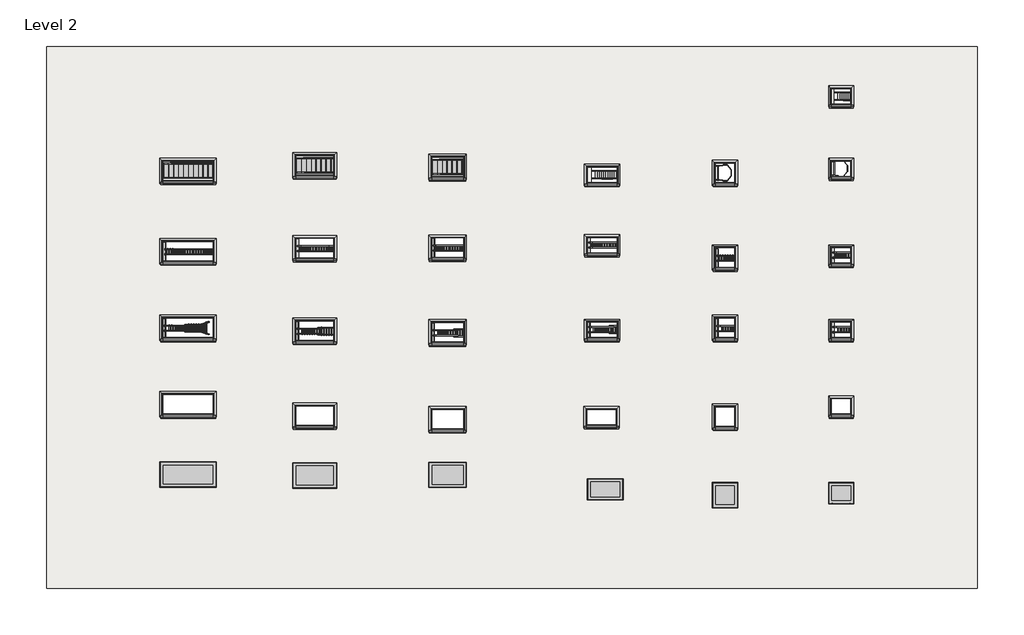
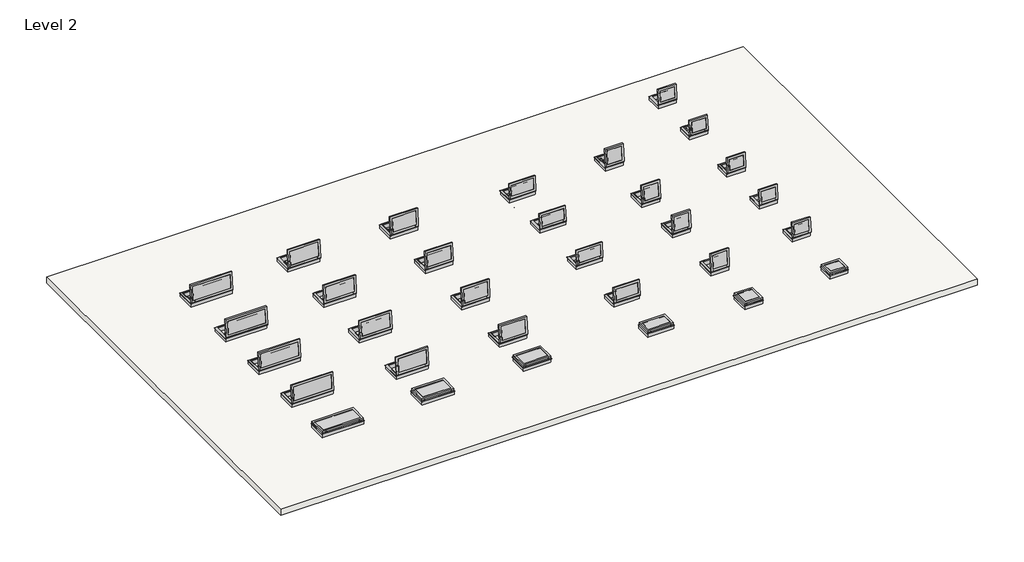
# One storey: 43 proxies, 1 roof.
"""IFC4 building model written with IfcOpenShell, lengths in millimetres."""

from ifc_helpers import new_model, si_unit, frame, origin, place, context, project, spatial, polyline, outline, extrude, transform, mapped, element, save
from components import generic_models_11501db7, generic_models_bd8c62b8, generic_models_e3b8b6f7, generic_models_53a43412, proxy_1400_x_700_b05f2fe0, proxy_1400_x_700_2part_stair_cbd6cccc, proxy_1500_x_900_2part_stair_46a1e432, proxy_1500_x_900_56f5f1ce, proxy_1500_x_900_solid_stair_c85e049a, proxy_1800_x_900_2part_stair_702ff97d, proxy_1800_x_900_1d037618, proxy_1800_x_900_solid_stair_56eae442, proxy_2400_x_900_2part_stair_3cd0962f, proxy_2400_x_900_553dbbde, proxy_2400_x_900_solid_stair_9e12e95f, proxy_900_x_700_2part_stair_44e53f71, proxy_900_x_700_c567ea2a, proxy_900_x_700_cage_ladder_a34c2096, proxy_900_x_700_cage_ladder_d702bcfd, proxy_900_x_900_2part_stair_d8f26226, proxy_900_x_900_452053f7, proxy_900_x_900_cage_ladder_f72fa98c, proxy_900_x_900_cage_ladder_dc90ed7f

model = new_model("IFC4")

# Units and contexts
model_context = context("Model", 3, world=origin())
ifc_project = project(units=[si_unit("LENGTHUNIT", "METRE", prefix="MILLI")], contexts=[model_context])

# Site, building, storey
site = spatial("IfcSite", under=ifc_project)
building = spatial("IfcBuilding", under=site)
storey = spatial("IfcBuildingStorey", under=building, Name="Level 2", Elevation=4000.0)

# Proxies
placement = place(None, origin())
generic_models_shape = generic_models_11501db7(model_context)
element("IfcBuildingElementProxy", 1, Name="9_Topaccess_Trap_3delige1 : 9_Topaccess_Trap_3delige1", ObjectType="9_Topaccess_Trap_3delige1 : 9_Topaccess_Trap_3delige1", at=placement, inside=storey, context=model_context, shape_type="MappedRepresentation", body=[
    mapped(generic_models_shape, transform((14768.4558574, 9423.7829161, -725.9542797), x_axis=(0.0, 1.0, 0.0), y_axis=(-0.3420201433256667, 0.0, 0.9396926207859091), z_axis=(0.9396926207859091, 0.0, 0.3420201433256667))),
])
element("IfcBuildingElementProxy", 2, Name="9_Topaccess_Trap_3delige1 : 9_Topaccess_Trap_3delige1", ObjectType="9_Topaccess_Trap_3delige1 : 9_Topaccess_Trap_3delige1", at=placement, inside=storey, context=model_context, shape_type="MappedRepresentation", body=[
    mapped(generic_models_shape, transform((9167.6234182, 9273.7643889, -726.4965388), x_axis=(0.0, 1.0, 0.0), y_axis=(-0.3420201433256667, 0.0, 0.9396926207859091), z_axis=(0.9396926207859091, 0.0, 0.3420201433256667))),
])
element("IfcBuildingElementProxy", 3, Name="9_Topaccess_Trap_3delige1 : 9_Topaccess_Trap_3delige1", ObjectType="9_Topaccess_Trap_3delige1 : 9_Topaccess_Trap_3delige1", at=placement, inside=storey, context=model_context, shape_type="MappedRepresentation", body=[
    mapped(generic_models_shape, transform((2973.3328651, 9913.7829161, -726.4965388), x_axis=(0.0, 1.0, 0.0), y_axis=(-0.3420201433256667, 0.0, 0.9396926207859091), z_axis=(0.9396926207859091, 0.0, 0.3420201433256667))),
])
element("IfcBuildingElementProxy", 4, Name="9_Topaccess_Trap_3delige1 : 9_Topaccess_Trap_3delige1", ObjectType="9_Topaccess_Trap_3delige1 : 9_Topaccess_Trap_3delige1", at=placement, inside=storey, context=model_context, shape_type="MappedRepresentation", body=[
    mapped(generic_models_shape, transform((-4546.3789178, 9765.6374367, -726.4965388), x_axis=(0.0, 1.0, 0.0), y_axis=(-0.3420201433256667, 0.0, 0.9396926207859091), z_axis=(0.9396926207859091, 0.0, 0.3420201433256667))),
])
element("IfcBuildingElementProxy", 5, Name="9_Topaccess_Trap_3delige1 : 9_Topaccess_Trap_3delige1", ObjectType="9_Topaccess_Trap_3delige1 : 9_Topaccess_Trap_3delige1", at=placement, inside=storey, context=model_context, shape_type="MappedRepresentation", body=[
    mapped(generic_models_shape, transform((-11118.7600609, 9740.5369912, -726.4965388), x_axis=(0.0, 1.0, 0.0), y_axis=(-0.3420201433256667, 0.0, 0.9396926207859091), z_axis=(0.9396926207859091, 0.0, 0.3420201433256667))),
])
element("IfcBuildingElementProxy", 6, Name="9_Topaccess_Trap_3delige1 : 9_Topaccess_Trap_3delige1", ObjectType="9_Topaccess_Trap_3delige1 : 9_Topaccess_Trap_3delige1", at=placement, inside=storey, context=model_context, shape_type="MappedRepresentation", body=[
    mapped(generic_models_shape, transform((-17541.0968788, 9586.7829161, -726.4965388), x_axis=(0.0, 1.0, 0.0), y_axis=(-0.3420201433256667, 0.0, 0.9396926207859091), z_axis=(0.9396926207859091, 0.0, 0.3420201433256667))),
])
generic_models_2_shape = generic_models_bd8c62b8(model_context)
element("IfcBuildingElementProxy", 7, Name="9_Topaccess_Trap_2delige1 : 9_Topaccess_Trap_2delige1", ObjectType="9_Topaccess_Trap_2delige1 : 9_Topaccess_Trap_2delige1", at=placement, inside=storey, context=model_context, shape_type="MappedRepresentation", body=[
    mapped(generic_models_2_shape, transform((-6344.0405933, 5665.6374367, 4411.342511), x_axis=(0.0, 1.0, 0.0), y_axis=(-0.3420201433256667, 0.0, 0.9396926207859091), z_axis=(0.9396926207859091, 0.0, 0.3420201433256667))),
])
element("IfcBuildingElementProxy", 8, Name="9_Topaccess_Trap_2delige1 : 9_Topaccess_Trap_2delige1", ObjectType="9_Topaccess_Trap_2delige1 : 9_Topaccess_Trap_2delige1", at=placement, inside=storey, context=model_context, shape_type="MappedRepresentation", body=[
    mapped(generic_models_2_shape, transform((12979.5049703, 5823.7829161, 4411.3570217), x_axis=(0.0, 1.0, 0.0), y_axis=(-0.3420201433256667, 0.0, 0.9396926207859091), z_axis=(0.9396926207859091, 0.0, 0.3420201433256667))),
])
element("IfcBuildingElementProxy", 9, Name="9_Topaccess_Trap_2delige1 : 9_Topaccess_Trap_2delige1", ObjectType="9_Topaccess_Trap_2delige1 : 9_Topaccess_Trap_2delige1", at=placement, inside=storey, context=model_context, shape_type="MappedRepresentation", body=[
    mapped(generic_models_2_shape, transform((7369.9617426, 5873.7643889, 4411.3570217), x_axis=(0.0, 1.0, 0.0), y_axis=(-0.3420201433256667, 0.0, 0.9396926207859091), z_axis=(0.9396926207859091, 0.0, 0.3420201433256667))),
])
element("IfcBuildingElementProxy", 10, Name="9_Topaccess_Trap_2delige1 : 9_Topaccess_Trap_2delige1", ObjectType="9_Topaccess_Trap_2delige1 : 9_Topaccess_Trap_2delige1", at=placement, inside=storey, context=model_context, shape_type="MappedRepresentation", body=[
    mapped(generic_models_2_shape, transform((1175.6711896, 5823.7829161, 4411.3570217), x_axis=(0.0, 1.0, 0.0), y_axis=(-0.3420201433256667, 0.0, 0.9396926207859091), z_axis=(0.9396926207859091, 0.0, 0.3420201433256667))),
])
element("IfcBuildingElementProxy", 11, Name="9_Topaccess_Trap_2delige1 : 9_Topaccess_Trap_2delige1", ObjectType="9_Topaccess_Trap_2delige1 : 9_Topaccess_Trap_2delige1", at=placement, inside=storey, context=model_context, shape_type="MappedRepresentation", body=[
    mapped(generic_models_2_shape, transform((-12916.4217364, 5740.5369912, 4411.342511), x_axis=(0.0, 1.0, 0.0), y_axis=(-0.3420201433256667, 0.0, 0.9396926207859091), z_axis=(0.9396926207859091, 0.0, 0.3420201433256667))),
])
element("IfcBuildingElementProxy", 12, Name="9_Topaccess_Trap_2delige1 : 9_Topaccess_Trap_2delige1", ObjectType="9_Topaccess_Trap_2delige1 : 9_Topaccess_Trap_2delige1", at=placement, inside=storey, context=model_context, shape_type="MappedRepresentation", body=[
    mapped(generic_models_2_shape, transform((-19338.7585543, 5888.7829161, 4411.3570217), x_axis=(0.0, 1.0, 0.0), y_axis=(-0.3420201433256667, 0.0, 0.9396926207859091), z_axis=(0.9396926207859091, 0.0, 0.3420201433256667))),
])
generic_models_3_shape = generic_models_e3b8b6f7(model_context)
element("IfcBuildingElementProxy", 13, Name="1_Topaccess_dakluik_900x700_Staka : 900 x 700 Scissor stair", ObjectType="1_Topaccess_dakluik_900x700_Staka : 900 x 700 Scissor stair", at=placement, inside=storey, context=model_context, shape_type="MappedRepresentation", body=[
    mapped(generic_models_3_shape, transform((13947.8893775, 16940.3358206, 4400.0), x_axis=(1.0, 0.0, 0.0), y_axis=(0.0, 1.0, 0.0), z_axis=(0.0, 0.0, 1.0))),
])
generic_models_4_shape = generic_models_53a43412(model_context)
element("IfcBuildingElementProxy", 14, Name="3_Topaccess_dakluik_1400x700_Staka : 1400x 700 Scissor stair", ObjectType="3_Topaccess_dakluik_1400x700_Staka : 1400x 700 Scissor stair", at=placement, inside=storey, context=model_context, shape_type="MappedRepresentation", body=[
    mapped(generic_models_4_shape, transform((2641.3225092, 13140.3358206, 4400.0), x_axis=(1.0, 0.0, 0.0), y_axis=(0.0, 1.0, 0.0), z_axis=(0.0, 0.0, 1.0))),
])
proxy_1400_x_700_shape = proxy_1400_x_700_b05f2fe0(model_context)
element("IfcBuildingElementProxy", 15, Name="3_Topaccess_dakluik_1400x700_Staka : 1400 x 700", ObjectType="3_Topaccess_dakluik_1400x700_Staka : 1400 x 700", at=placement, inside=storey, context=model_context, shape_type="MappedRepresentation", body=[
    mapped(proxy_1400_x_700_shape, transform((2794.7213375, -2074.2530291, 4400.0), x_axis=(1.0, 0.0, 0.0), y_axis=(0.0, 1.0, 0.0), z_axis=(0.0, 0.0, 1.0))),
])
proxy_1400_x_700_2part_stair_shape = proxy_1400_x_700_2part_stair_cbd6cccc(model_context)
element("IfcBuildingElementProxy", 16, Name="3_Topaccess_dakluik_1400x700_Staka : 1400 x 700", ObjectType="3_Topaccess_dakluik_1400x700_Staka : 1400 x 700", at=placement, inside=storey, context=model_context, shape_type="MappedRepresentation", body=[
    mapped(proxy_1400_x_700_2part_stair_shape, transform((2611.5454907, 1420.9503425, 4400.0), x_axis=(1.0, 0.0, 0.0), y_axis=(0.0, 1.0, 0.0), z_axis=(0.0, 0.0, 1.0))),
])
element("IfcBuildingElementProxy", 17, Name="3_Topaccess_dakluik_1400x700_Staka : 1400 x 700 2part Stair", ObjectType="3_Topaccess_dakluik_1400x700_Staka : 1400 x 700 2part Stair", at=placement, inside=storey, context=model_context, shape_type="MappedRepresentation", body=[
    mapped(proxy_1400_x_700_2part_stair_shape, transform((2641.3225092, 5640.3358206, 4400.0), x_axis=(1.0, 0.0, 0.0), y_axis=(0.0, 1.0, 0.0), z_axis=(0.0, 0.0, 1.0))),
])
element("IfcBuildingElementProxy", 18, Name="3_Topaccess_dakluik_1400x700_Staka : 1400 x 700 3part Stair", ObjectType="3_Topaccess_dakluik_1400x700_Staka : 1400 x 700 3part Stair", at=placement, inside=storey, context=model_context, shape_type="MappedRepresentation", body=[
    mapped(proxy_1400_x_700_2part_stair_shape, transform((2641.3225092, 9740.3358206, 4400.0), x_axis=(1.0, 0.0, 0.0), y_axis=(0.0, 1.0, 0.0), z_axis=(0.0, 0.0, 1.0))),
])
proxy_1500_x_900_2part_stair_shape = proxy_1500_x_900_2part_stair_46a1e432(model_context)
element("IfcBuildingElementProxy", 19, Name="4_Topaccess_dakluik_1500x900_Staka : 1500 x 900", ObjectType="4_Topaccess_dakluik_1500x900_Staka : 1500 x 900", at=placement, inside=storey, context=model_context, shape_type="MappedRepresentation", body=[
    mapped(proxy_1500_x_900_2part_stair_shape, transform((-4778.3892737, 1222.1903412, 4400.0), x_axis=(1.0, 0.0, 0.0), y_axis=(0.0, 1.0, 0.0), z_axis=(0.0, 0.0, 1.0))),
])
proxy_1500_x_900_shape = proxy_1500_x_900_56f5f1ce(model_context)
element("IfcBuildingElementProxy", 20, Name="4_Topaccess_dakluik_1500x900_Staka : 1500 x 900", ObjectType="4_Topaccess_dakluik_1500x900_Staka : 1500 x 900", at=placement, inside=storey, context=model_context, shape_type="MappedRepresentation", body=[
    mapped(proxy_1500_x_900_shape, transform((-4778.3892737, -1477.8096588, 4400.0), x_axis=(1.0, 0.0, 0.0), y_axis=(0.0, 1.0, 0.0), z_axis=(0.0, 0.0, 1.0))),
])
element("IfcBuildingElementProxy", 21, Name="4_Topaccess_dakluik_1500x900_Staka : 1500 x 900 2part Stair", ObjectType="4_Topaccess_dakluik_1500x900_Staka : 1500 x 900 2part Stair", at=placement, inside=storey, context=model_context, shape_type="MappedRepresentation", body=[
    mapped(proxy_1500_x_900_2part_stair_shape, transform((-4778.3892737, 5422.1903412, 4400.0), x_axis=(1.0, 0.0, 0.0), y_axis=(0.0, 1.0, 0.0), z_axis=(0.0, 0.0, 1.0))),
])
element("IfcBuildingElementProxy", 22, Name="4_Topaccess_dakluik_1500x900_Staka : 1500 x 900 3part Stair", ObjectType="4_Topaccess_dakluik_1500x900_Staka : 1500 x 900 3part Stair", at=placement, inside=storey, context=model_context, shape_type="MappedRepresentation", body=[
    mapped(proxy_1500_x_900_2part_stair_shape, transform((-4778.3892737, 9522.1903412, 4400.0), x_axis=(1.0, 0.0, 0.0), y_axis=(0.0, 1.0, 0.0), z_axis=(0.0, 0.0, 1.0))),
])
proxy_1500_x_900_solid_stair_shape = proxy_1500_x_900_solid_stair_c85e049a(model_context)
element("IfcBuildingElementProxy", 23, Name="4_Topaccess_dakluik_1500x900_Staka : 1500 x 900 Solid Stair", ObjectType="4_Topaccess_dakluik_1500x900_Staka : 1500 x 900 Solid Stair", at=placement, inside=storey, context=model_context, shape_type="MappedRepresentation", body=[
    mapped(proxy_1500_x_900_solid_stair_shape, transform((-4778.3892737, 13422.1903412, 4400.0), x_axis=(1.0, 0.0, 0.0), y_axis=(0.0, 1.0, 0.0), z_axis=(0.0, 0.0, 1.0))),
])
proxy_1800_x_900_2part_stair_shape = proxy_1800_x_900_2part_stair_702ff97d(model_context)
element("IfcBuildingElementProxy", 24, Name="4_Topaccess_dakluik_1800x900_Staka : 1800 x 900", ObjectType="4_Topaccess_dakluik_1800x900_Staka : 1800 x 900", at=placement, inside=storey, context=model_context, shape_type="MappedRepresentation", body=[
    mapped(proxy_1800_x_900_2part_stair_shape, transform((-11350.7704168, 1397.0898957, 4400.0), x_axis=(1.0, 0.0, 0.0), y_axis=(0.0, 1.0, 0.0), z_axis=(0.0, 0.0, 1.0))),
])
proxy_1800_x_900_shape = proxy_1800_x_900_1d037618(model_context)
element("IfcBuildingElementProxy", 25, Name="4_Topaccess_dakluik_1800x900_Staka : 1800 x 900", ObjectType="4_Topaccess_dakluik_1800x900_Staka : 1800 x 900", at=placement, inside=storey, context=model_context, shape_type="MappedRepresentation", body=[
    mapped(proxy_1800_x_900_shape, transform((-11350.7704168, -1502.9101043, 4400.0), x_axis=(1.0, 0.0, 0.0), y_axis=(0.0, 1.0, 0.0), z_axis=(0.0, 0.0, 1.0))),
])
element("IfcBuildingElementProxy", 26, Name="4_Topaccess_dakluik_1800x900_Staka : 1800 x 900 2part Stair", ObjectType="4_Topaccess_dakluik_1800x900_Staka : 1800 x 900 2part Stair", at=placement, inside=storey, context=model_context, shape_type="MappedRepresentation", body=[
    mapped(proxy_1800_x_900_2part_stair_shape, transform((-11350.7704168, 5497.0898957, 4400.0), x_axis=(1.0, 0.0, 0.0), y_axis=(0.0, 1.0, 0.0), z_axis=(0.0, 0.0, 1.0))),
])
element("IfcBuildingElementProxy", 27, Name="4_Topaccess_dakluik_1800x900_Staka : 1800 x 900 3part Stair", ObjectType="4_Topaccess_dakluik_1800x900_Staka : 1800 x 900 3part Stair", at=placement, inside=storey, context=model_context, shape_type="MappedRepresentation", body=[
    mapped(proxy_1800_x_900_2part_stair_shape, transform((-11350.7704168, 9497.0898957, 4400.0), x_axis=(1.0, 0.0, 0.0), y_axis=(0.0, 1.0, 0.0), z_axis=(0.0, 0.0, 1.0))),
])
proxy_1800_x_900_solid_stair_shape = proxy_1800_x_900_solid_stair_56eae442(model_context)
element("IfcBuildingElementProxy", 28, Name="4_Topaccess_dakluik_1800x900_Staka : 1800 x 900 Solid Stair", ObjectType="4_Topaccess_dakluik_1800x900_Staka : 1800 x 900 Solid Stair", at=placement, inside=storey, context=model_context, shape_type="MappedRepresentation", body=[
    mapped(proxy_1800_x_900_solid_stair_shape, transform((-11350.7704168, 13497.0898957, 4400.0), x_axis=(1.0, 0.0, 0.0), y_axis=(0.0, 1.0, 0.0), z_axis=(0.0, 0.0, 1.0))),
])
proxy_2400_x_900_2part_stair_shape = proxy_2400_x_900_2part_stair_3cd0962f(model_context)
element("IfcBuildingElementProxy", 29, Name="5_Topaccess_dakluik_2400x900_Staka : 2400 x 900", ObjectType="5_Topaccess_dakluik_2400x900_Staka : 2400 x 900", at=placement, inside=storey, context=model_context, shape_type="MappedRepresentation", body=[
    mapped(proxy_2400_x_900_2part_stair_shape, transform((-16873.1072347, 1940.3358206, 4400.0), x_axis=(1.0, 0.0, 0.0), y_axis=(0.0, 1.0, 0.0), z_axis=(0.0, 0.0, 1.0))),
])
proxy_2400_x_900_shape = proxy_2400_x_900_553dbbde(model_context)
element("IfcBuildingElementProxy", 30, Name="5_Topaccess_dakluik_2400x900_Staka : 2400 x 900", ObjectType="5_Topaccess_dakluik_2400x900_Staka : 2400 x 900", at=placement, inside=storey, context=model_context, shape_type="MappedRepresentation", body=[
    mapped(proxy_2400_x_900_shape, transform((-16873.1072347, -1459.6641794, 4400.0), x_axis=(1.0, 0.0, 0.0), y_axis=(0.0, 1.0, 0.0), z_axis=(0.0, 0.0, 1.0))),
])
element("IfcBuildingElementProxy", 31, Name="5_Topaccess_dakluik_2400x900_Staka : 2400 x 900 2part Stair", ObjectType="5_Topaccess_dakluik_2400x900_Staka : 2400 x 900 2part Stair", at=placement, inside=storey, context=model_context, shape_type="MappedRepresentation", body=[
    mapped(proxy_2400_x_900_2part_stair_shape, transform((-16873.1072347, 5640.3358206, 4400.0), x_axis=(1.0, 0.0, 0.0), y_axis=(0.0, 1.0, 0.0), z_axis=(0.0, 0.0, 1.0))),
])
element("IfcBuildingElementProxy", 32, Name="5_Topaccess_dakluik_2400x900_Staka : 2400 x 900 3part Stair", ObjectType="5_Topaccess_dakluik_2400x900_Staka : 2400 x 900 3part Stair", at=placement, inside=storey, context=model_context, shape_type="MappedRepresentation", body=[
    mapped(proxy_2400_x_900_2part_stair_shape, transform((-16873.1072347, 9340.3358206, 4400.0), x_axis=(1.0, 0.0, 0.0), y_axis=(0.0, 1.0, 0.0), z_axis=(0.0, 0.0, 1.0))),
])
proxy_2400_x_900_solid_stair_shape = proxy_2400_x_900_solid_stair_9e12e95f(model_context)
element("IfcBuildingElementProxy", 33, Name="5_Topaccess_dakluik_2400x900_Staka : 2400 x 900 Solid Stair", ObjectType="5_Topaccess_dakluik_2400x900_Staka : 2400 x 900 Solid Stair", at=placement, inside=storey, context=model_context, shape_type="MappedRepresentation", body=[
    mapped(proxy_2400_x_900_solid_stair_shape, transform((-16873.1072347, 13240.3358206, 4400.0), x_axis=(1.0, 0.0, 0.0), y_axis=(0.0, 1.0, 0.0), z_axis=(0.0, 0.0, 1.0))),
])
proxy_900_x_700_2part_stair_shape = proxy_900_x_700_2part_stair_44e53f71(model_context)
element("IfcBuildingElementProxy", 34, Name="1_Topaccess_dakluik_900x700_Staka : 900 x 700", ObjectType="1_Topaccess_dakluik_900x700_Staka : 900 x 700", at=placement, inside=storey, context=model_context, shape_type="MappedRepresentation", body=[
    mapped(proxy_900_x_700_2part_stair_shape, transform((13947.8893775, 1940.3358206, 4400.0), x_axis=(1.0, 0.0, 0.0), y_axis=(0.0, 1.0, 0.0), z_axis=(0.0, 0.0, 1.0))),
])
proxy_900_x_700_shape = proxy_900_x_700_c567ea2a(model_context)
element("IfcBuildingElementProxy", 35, Name="1_Topaccess_dakluik_900x700_Staka : 900 x 700", ObjectType="1_Topaccess_dakluik_900x700_Staka : 900 x 700", at=placement, inside=storey, context=model_context, shape_type="MappedRepresentation", body=[
    mapped(proxy_900_x_700_shape, transform((13947.8893775, -2259.6641794, 4400.0), x_axis=(1.0, 0.0, 0.0), y_axis=(0.0, 1.0, 0.0), z_axis=(0.0, 0.0, 1.0))),
])
element("IfcBuildingElementProxy", 36, Name="1_Topaccess_dakluik_900x700_Staka : 900 x 700 2part Stair", ObjectType="1_Topaccess_dakluik_900x700_Staka : 900 x 700 2part Stair", at=placement, inside=storey, context=model_context, shape_type="MappedRepresentation", body=[
    mapped(proxy_900_x_700_2part_stair_shape, transform((13947.8893775, 5640.3358206, 4400.0), x_axis=(1.0, 0.0, 0.0), y_axis=(0.0, 1.0, 0.0), z_axis=(0.0, 0.0, 1.0))),
])
element("IfcBuildingElementProxy", 37, Name="1_Topaccess_dakluik_900x700_Staka : 900 x 700 3part Stair", ObjectType="1_Topaccess_dakluik_900x700_Staka : 900 x 700 3part Stair", at=placement, inside=storey, context=model_context, shape_type="MappedRepresentation", body=[
    mapped(proxy_900_x_700_2part_stair_shape, transform((13947.8893775, 9240.3358206, 4400.0), x_axis=(1.0, 0.0, 0.0), y_axis=(0.0, 1.0, 0.0), z_axis=(0.0, 0.0, 1.0))),
])
proxy_900_x_700_cage_ladder_shape = proxy_900_x_700_cage_ladder_a34c2096(model_context)
proxy_900_x_700_cage_ladder_2_shape = proxy_900_x_700_cage_ladder_d702bcfd(model_context)
element("IfcBuildingElementProxy", 38, Name="1_Topaccess_dakluik_900x700_Staka : 900 x 700 Cage ladder", ObjectType="1_Topaccess_dakluik_900x700_Staka : 900 x 700 Cage ladder", at=placement, inside=storey, context=model_context, shape_type="MappedRepresentation", body=[
    mapped(proxy_900_x_700_cage_ladder_shape, transform((13947.8893775, 13440.3358206, 4400.0), x_axis=(1.0, 0.0, 0.0), y_axis=(0.0, 1.0, 0.0), z_axis=(0.0, 0.0, 1.0))),
    mapped(proxy_900_x_700_cage_ladder_2_shape, transform((13947.8893775, 13440.3358206, 4400.0), x_axis=(1.0, 0.0, 0.0), y_axis=(0.0, 1.0, 0.0), z_axis=(0.0, 0.0, 1.0))),
])
proxy_900_x_900_2part_stair_shape = proxy_900_x_900_2part_stair_d8f26226(model_context)
element("IfcBuildingElementProxy", 39, Name="2_Topaccess_dakluik_900x900_Staka : 900 x 900", ObjectType="2_Topaccess_dakluik_900x900_Staka : 900 x 900", at=placement, inside=storey, context=model_context, shape_type="MappedRepresentation", body=[
    mapped(proxy_900_x_900_2part_stair_shape, transform((8335.6130622, 1340.3358206, 4400.0), x_axis=(1.0, 0.0, 0.0), y_axis=(0.0, 1.0, 0.0), z_axis=(0.0, 0.0, 1.0))),
])
proxy_900_x_900_shape = proxy_900_x_900_452053f7(model_context)
element("IfcBuildingElementProxy", 40, Name="2_Topaccess_dakluik_900x900_Staka : 900 x 900", ObjectType="2_Topaccess_dakluik_900x900_Staka : 900 x 900", at=placement, inside=storey, context=model_context, shape_type="MappedRepresentation", body=[
    mapped(proxy_900_x_900_shape, transform((8335.6130622, -2459.6641794, 4400.0), x_axis=(1.0, 0.0, 0.0), y_axis=(0.0, 1.0, 0.0), z_axis=(0.0, 0.0, 1.0))),
])
element("IfcBuildingElementProxy", 41, Name="2_Topaccess_dakluik_900x900_Staka : 900 x 900 2part Stair", ObjectType="2_Topaccess_dakluik_900x900_Staka : 900 x 900 2part Stair", at=placement, inside=storey, context=model_context, shape_type="MappedRepresentation", body=[
    mapped(proxy_900_x_900_2part_stair_shape, transform((8335.6130622, 5640.3358206, 4400.0), x_axis=(1.0, 0.0, 0.0), y_axis=(0.0, 1.0, 0.0), z_axis=(0.0, 0.0, 1.0))),
])
element("IfcBuildingElementProxy", 42, Name="2_Topaccess_dakluik_900x900_Staka : 900 x 900 3part Stair", ObjectType="2_Topaccess_dakluik_900x900_Staka : 900 x 900 3part Stair", at=placement, inside=storey, context=model_context, shape_type="MappedRepresentation", body=[
    mapped(proxy_900_x_900_2part_stair_shape, transform((8335.6130622, 9040.3358206, 4400.0), x_axis=(1.0, 0.0, 0.0), y_axis=(0.0, 1.0, 0.0), z_axis=(0.0, 0.0, 1.0))),
])
proxy_900_x_900_cage_ladder_shape = proxy_900_x_900_cage_ladder_f72fa98c(model_context)
proxy_900_x_900_cage_ladder_2_shape = proxy_900_x_900_cage_ladder_dc90ed7f(model_context)
element("IfcBuildingElementProxy", 43, Name="2_Topaccess_dakluik_900x900_Staka : 900 x 900 Cage ladder", ObjectType="2_Topaccess_dakluik_900x900_Staka : 900 x 900 Cage ladder", at=placement, inside=storey, context=model_context, shape_type="MappedRepresentation", body=[
    mapped(proxy_900_x_900_cage_ladder_shape, transform((8335.6130622, 13140.3358206, 4400.0), x_axis=(1.0, 0.0, 0.0), y_axis=(0.0, 1.0, 0.0), z_axis=(0.0, 0.0, 1.0))),
    mapped(proxy_900_x_900_cage_ladder_2_shape, transform((8335.6130622, 13140.3358206, 4400.0), x_axis=(1.0, 0.0, 0.0), y_axis=(0.0, 1.0, 0.0), z_axis=(0.0, 0.0, 1.0))),
])

# Roof
element("IfcRoof", 44, ObjectType="Generic - 400mm", at=placement, inside=storey, context=model_context, shape_type="SweptSolid", body=[
    extrude(outline(polyline([(19953.9339479, -6716.7491275), (-25046.0660521, -6716.7491275), (-25046.0660521, 19483.2508725), (19953.9339479, 19483.2508725), (19953.9339479, -6716.7491275)]), holes=[polyline([(-17024.376997, 5423.7829162), (-17004.376997, 5423.7829162), (-17004.376997, 6323.7458616), (-19404.376997, 6323.7458616), (-19404.376997, 5423.7829162), (-17024.376997, 5423.7829162)]), polyline([(2510.0527468, 5423.7829161), (2510.0527468, 6123.7458616), (1110.0527468, 6123.7458616), (1110.0527468, 5423.7829161), (2510.0527468, 5423.7829161)]), polyline([(8184.3432999, 5423.7829161), (8204.3432999, 5423.7829161), (8204.3432999, 6323.7458616), (7304.3432999, 6323.7458616), (7304.3432999, 5423.7829161), (8184.3432999, 5423.7829161)]), polyline([(13796.6196152, 5423.7829161), (13816.6196152, 5423.7829161), (13816.6196152, 6123.7458616), (12916.6196152, 6123.7458616), (12916.6196152, 5423.7829161), (13796.6196152, 5423.7829161)]), polyline([(-11202.0401791, 5280.5369912), (-11182.0401791, 5280.5369912), (-11182.0401791, 6180.4999367), (-12982.0401791, 6180.4999367), (-12982.0401791, 5280.5369912), (-11202.0401791, 5280.5369912)]), polyline([(-4929.659036, 5205.6374367), (-4909.659036, 5205.6374367), (-4909.659036, 6105.6003822), (-6409.659036, 6105.6003822), (-6409.659036, 5205.6374367), (-4929.659036, 5205.6374367)]), polyline([(13796.6196152, 1723.7829161), (13816.6196152, 1723.7829161), (13816.6196152, 2423.7458616), (12916.6196152, 2423.7458616), (12916.6196152, 1723.7829161), (13796.6196152, 1723.7829161)]), polyline([(13796.6196152, 9023.7829161), (13816.6196152, 9023.7829161), (13816.6196152, 9723.7458616), (12916.6196152, 9723.7458616), (12916.6196152, 9023.7829161), (13796.6196152, 9023.7829161)]), polyline([(13796.6196152, 13223.7829161), (13816.6196152, 13223.7829161), (13816.6196152, 13923.7458616), (12916.6196152, 13923.7458616), (12916.6196152, 13223.7829161), (13796.6196152, 13223.7829161)]), polyline([(13796.6196152, 16723.7829161), (13816.6196152, 16723.7829161), (13816.6196152, 17423.7458616), (13029.6196152, 17423.7458616), (13029.6196152, 16723.7829161), (13796.6196152, 16723.7829161)]), polyline([(8184.3432999, 12923.7829161), (8204.3432999, 12923.7829161), (8204.3432999, 13823.7458616), (7304.3432999, 13823.7458616), (7304.3432999, 12923.7829161), (8184.3432999, 12923.7829161)]), polyline([(8184.3432999, 8823.7829161), (8204.3432999, 8823.7829161), (8204.3432999, 9723.7458616), (7304.3432999, 9723.7458616), (7304.3432999, 8823.7829161), (8184.3432999, 8823.7829161)]), polyline([(8184.3432999, 1123.7829161), (8204.3432999, 1123.7829161), (8204.3432999, 2023.7458616), (7304.3432999, 2023.7458616), (7304.3432999, 1123.7829161), (8184.3432999, 1123.7829161)]), polyline([(2510.0527468, 12923.7829161), (2510.0527468, 13623.7458616), (1310.0527468, 13623.7458616), (1310.0527468, 12923.7829161), (2510.0527468, 12923.7829161)]), polyline([(2510.0527468, 9523.7829161), (2510.0527468, 10223.7458616), (1110.0527468, 10223.7458616), (1110.0527468, 9523.7829161), (2510.0527468, 9523.7829161)]), polyline([(2480.2757284, 1204.397438), (2480.2757284, 1904.3603835), (1080.2757284, 1904.3603835), (1080.2757284, 1204.397438), (2480.2757284, 1204.397438)]), polyline([(-4929.659036, 1005.6374367), (-4909.659036, 1005.6374367), (-4909.659036, 1905.6003822), (-6409.659036, 1905.6003822), (-6409.659036, 1005.6374367), (-4929.659036, 1005.6374367)]), polyline([(-4929.659036, 9305.6374367), (-4909.659036, 9305.6374367), (-4909.659036, 10205.6003822), (-6409.659036, 10205.6003822), (-6409.659036, 9305.6374367), (-4929.659036, 9305.6374367)]), polyline([(-4929.659036, 13205.6374367), (-4909.659036, 13205.6374367), (-4909.659036, 14105.6003822), (-6409.659036, 14105.6003822), (-6409.659036, 13205.6374367), (-4929.659036, 13205.6374367)]), polyline([(-11202.0401791, 9280.5369912), (-11182.0401791, 9280.5369912), (-11182.0401791, 10180.4999367), (-12982.0401791, 10180.4999367), (-12982.0401791, 9280.5369912), (-11202.0401791, 9280.5369912)]), polyline([(-11202.0401791, 1180.5369912), (-11182.0401791, 1180.5369912), (-11182.0401791, 2080.4999367), (-12982.0401791, 2080.4999367), (-12982.0401791, 1180.5369912), (-11202.0401791, 1180.5369912)]), polyline([(-11202.0401791, 13280.5369912), (-11182.0401791, 13280.5369912), (-11182.0401791, 14180.4999367), (-12982.0401791, 14180.4999367), (-12982.0401791, 13280.5369912), (-11202.0401791, 13280.5369912)]), polyline([(-17024.376997, 13023.7829162), (-17004.376997, 13023.7829161), (-17004.376997, 13923.7458616), (-19404.376997, 13923.7458616), (-19404.376997, 13023.7829162), (-17024.376997, 13023.7829162)]), polyline([(-17024.376997, 1723.7829162), (-17004.376997, 1723.7829162), (-17004.376997, 2623.7458616), (-19404.376997, 2623.7458616), (-19404.376997, 1723.7829162), (-17024.376997, 1723.7829162)]), polyline([(-17024.376997, 9123.7829162), (-17004.376997, 9123.7829162), (-17004.376997, 10023.7458616), (-19404.376997, 10023.7458616), (-19404.376997, 9123.7829162), (-17024.376997, 9123.7829162)]), polyline([(-17024.376997, -1676.2170838), (-17004.376997, -1676.2170838), (-17004.376997, -776.2541384), (-19404.376997, -776.2541384), (-19404.376997, -1676.2170838), (-17024.376997, -1676.2170838)]), polyline([(-11202.0401791, -1719.4630088), (-11182.0401791, -1719.4630088), (-11182.0401791, -819.5000633), (-12982.0401791, -819.5000633), (-12982.0401791, -1719.4630088), (-11202.0401791, -1719.4630088)]), polyline([(-4929.659036, -1694.3625633), (-4909.659036, -1694.3625633), (-4909.659036, -794.3996178), (-6409.659036, -794.3996178), (-6409.659036, -1694.3625633), (-4929.659036, -1694.3625633)]), polyline([(2663.4515752, -2290.8059336), (2663.4515752, -1590.8429881), (1263.4515752, -1590.8429881), (1263.4515752, -2290.8059336), (2663.4515752, -2290.8059336)]), polyline([(8184.3432999, -2676.2170839), (8204.3432999, -2676.2170839), (8204.3432999, -1776.2541384), (7304.3432999, -1776.2541384), (7304.3432999, -2676.2170839), (8184.3432999, -2676.2170839)]), polyline([(13796.6196152, -2476.2170839), (13816.6196152, -2476.2170839), (13816.6196152, -1776.2541384), (12916.6196152, -1776.2541384), (12916.6196152, -2476.2170839), (13796.6196152, -2476.2170839)])]), frame((0.0, 0.0, 4000.0), z_axis=(0.0, 0.0, 1.0), x_axis=(1.0, 0.0, 0.0)), (0.0, 0.0, 1.0), 400.0),
])

save(model, "model.ifc")
